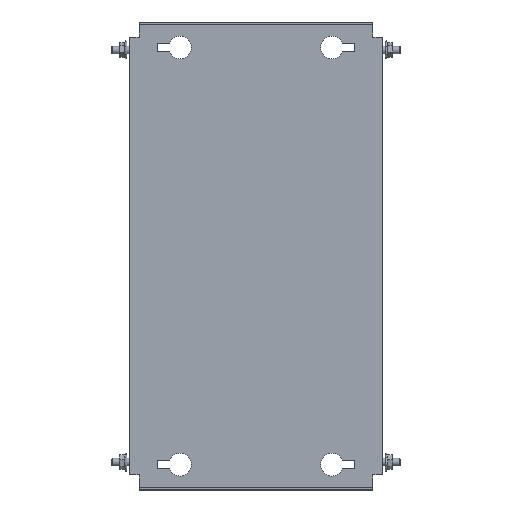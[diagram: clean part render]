
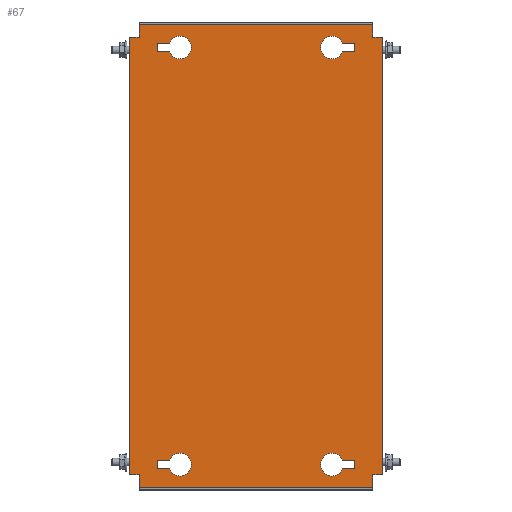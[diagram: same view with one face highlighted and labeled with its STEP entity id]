
A CAD part, top view. The second image highlights one B-rep face of the part: STEP entity #67.
In plain terms, the highlighted planar face has unit normal (0, 0, 1).
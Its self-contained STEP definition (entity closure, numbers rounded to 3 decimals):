
#67 = ADVANCED_FACE('',(#68,#103,#138,#300,#335),#370,.T.);
#68 = FACE_BOUND('',#69,.T.);
#69 = EDGE_LOOP('',(#70,#80,#88,#96));
#70 = ORIENTED_EDGE('',*,*,#71,.T.);
#71 = EDGE_CURVE('',#72,#74,#76,.T.);
#72 = VERTEX_POINT('',#73);
#73 = CARTESIAN_POINT('',(68.393,167.75,2.));
#74 = VERTEX_POINT('',#75);
#75 = CARTESIAN_POINT('',(78.,167.75,2.));
#76 = LINE('',#77,#78);
#77 = CARTESIAN_POINT('',(77.,167.75,2.));
#78 = VECTOR('',#79,1.);
#79 = DIRECTION('',(1.,0.,0.));
#80 = ORIENTED_EDGE('',*,*,#81,.T.);
#81 = EDGE_CURVE('',#74,#82,#84,.T.);
#82 = VERTEX_POINT('',#83);
#83 = CARTESIAN_POINT('',(78.,161.25,2.));
#84 = LINE('',#85,#86);
#85 = CARTESIAN_POINT('',(78.,167.75,2.));
#86 = VECTOR('',#87,1.);
#87 = DIRECTION('',(0.,-1.,0.));
#88 = ORIENTED_EDGE('',*,*,#89,.T.);
#89 = EDGE_CURVE('',#82,#90,#92,.T.);
#90 = VERTEX_POINT('',#91);
#91 = CARTESIAN_POINT('',(68.393,161.25,2.));
#92 = LINE('',#93,#94);
#93 = CARTESIAN_POINT('',(77.,161.25,2.));
#94 = VECTOR('',#95,1.);
#95 = DIRECTION('',(-1.,0.,0.));
#96 = ORIENTED_EDGE('',*,*,#97,.T.);
#97 = EDGE_CURVE('',#90,#72,#98,.T.);
#98 = CIRCLE('',#99,9.);
#99 = AXIS2_PLACEMENT_3D('',#100,#101,#102);
#100 = CARTESIAN_POINT('',(60.,164.5,2.));
#101 = DIRECTION('',(0.,0.,-1.));
#102 = DIRECTION('',(1.,0.,0.));
#103 = FACE_BOUND('',#104,.T.);
#104 = EDGE_LOOP('',(#105,#115,#123,#131));
#105 = ORIENTED_EDGE('',*,*,#106,.T.);
#106 = EDGE_CURVE('',#107,#109,#111,.T.);
#107 = VERTEX_POINT('',#108);
#108 = CARTESIAN_POINT('',(-68.393,-167.75,2.));
#109 = VERTEX_POINT('',#110);
#110 = CARTESIAN_POINT('',(-78.,-167.75,2.));
#111 = LINE('',#112,#113);
#112 = CARTESIAN_POINT('',(-77.,-167.75,2.));
#113 = VECTOR('',#114,1.);
#114 = DIRECTION('',(-1.,0.,0.));
#115 = ORIENTED_EDGE('',*,*,#116,.T.);
#116 = EDGE_CURVE('',#109,#117,#119,.T.);
#117 = VERTEX_POINT('',#118);
#118 = CARTESIAN_POINT('',(-78.,-161.25,2.));
#119 = LINE('',#120,#121);
#120 = CARTESIAN_POINT('',(-78.,-167.75,2.));
#121 = VECTOR('',#122,1.);
#122 = DIRECTION('',(0.,1.,0.));
#123 = ORIENTED_EDGE('',*,*,#124,.T.);
#124 = EDGE_CURVE('',#117,#125,#127,.T.);
#125 = VERTEX_POINT('',#126);
#126 = CARTESIAN_POINT('',(-68.393,-161.25,2.));
#127 = LINE('',#128,#129);
#128 = CARTESIAN_POINT('',(-77.,-161.25,2.));
#129 = VECTOR('',#130,1.);
#130 = DIRECTION('',(1.,-0.,-0.));
#131 = ORIENTED_EDGE('',*,*,#132,.T.);
#132 = EDGE_CURVE('',#125,#107,#133,.T.);
#133 = CIRCLE('',#134,9.);
#134 = AXIS2_PLACEMENT_3D('',#135,#136,#137);
#135 = CARTESIAN_POINT('',(-60.,-164.5,2.));
#136 = DIRECTION('',(0.,0.,-1.));
#137 = DIRECTION('',(-1.,0.,0.));
#138 = FACE_BOUND('',#139,.T.);
#139 = EDGE_LOOP('',(#140,#150,#158,#166,#174,#182,#190,#198,#206,#214,
    #222,#230,#238,#246,#254,#262,#270,#278,#286,#294));
#140 = ORIENTED_EDGE('',*,*,#141,.F.);
#141 = EDGE_CURVE('',#142,#144,#146,.T.);
#142 = VERTEX_POINT('',#143);
#143 = CARTESIAN_POINT('',(-97.4,172.5,2.));
#144 = VERTEX_POINT('',#145);
#145 = CARTESIAN_POINT('',(-92.,172.5,2.));
#146 = LINE('',#147,#148);
#147 = CARTESIAN_POINT('',(-98.,172.5,2.));
#148 = VECTOR('',#149,1.);
#149 = DIRECTION('',(1.,0.,-0.));
#150 = ORIENTED_EDGE('',*,*,#151,.T.);
#151 = EDGE_CURVE('',#142,#152,#154,.T.);
#152 = VERTEX_POINT('',#153);
#153 = CARTESIAN_POINT('',(-100.,172.5,2.));
#154 = LINE('',#155,#156);
#155 = CARTESIAN_POINT('',(-97.4,172.5,2.));
#156 = VECTOR('',#157,1.);
#157 = DIRECTION('',(-1.,0.,0.));
#158 = ORIENTED_EDGE('',*,*,#159,.F.);
#159 = EDGE_CURVE('',#160,#152,#162,.T.);
#160 = VERTEX_POINT('',#161);
#161 = CARTESIAN_POINT('',(-100.,-172.5,2.));
#162 = LINE('',#163,#164);
#163 = CARTESIAN_POINT('',(-100.,-182.5,2.));
#164 = VECTOR('',#165,1.);
#165 = DIRECTION('',(0.,1.,-0.));
#166 = ORIENTED_EDGE('',*,*,#167,.F.);
#167 = EDGE_CURVE('',#168,#160,#170,.T.);
#168 = VERTEX_POINT('',#169);
#169 = CARTESIAN_POINT('',(-97.4,-172.5,2.));
#170 = LINE('',#171,#172);
#171 = CARTESIAN_POINT('',(-92.,-172.5,2.));
#172 = VECTOR('',#173,1.);
#173 = DIRECTION('',(-1.,-0.,-0.));
#174 = ORIENTED_EDGE('',*,*,#175,.T.);
#175 = EDGE_CURVE('',#168,#176,#178,.T.);
#176 = VERTEX_POINT('',#177);
#177 = CARTESIAN_POINT('',(-92.,-172.5,2.));
#178 = LINE('',#179,#180);
#179 = CARTESIAN_POINT('',(-98.,-172.5,2.));
#180 = VECTOR('',#181,1.);
#181 = DIRECTION('',(1.,0.,-0.));
#182 = ORIENTED_EDGE('',*,*,#183,.T.);
#183 = EDGE_CURVE('',#176,#184,#186,.T.);
#184 = VERTEX_POINT('',#185);
#185 = CARTESIAN_POINT('',(-92.,-181.9,2.));
#186 = LINE('',#187,#188);
#187 = CARTESIAN_POINT('',(-92.,182.5,2.));
#188 = VECTOR('',#189,1.);
#189 = DIRECTION('',(0.,-1.,0.));
#190 = ORIENTED_EDGE('',*,*,#191,.T.);
#191 = EDGE_CURVE('',#184,#192,#194,.T.);
#192 = VERTEX_POINT('',#193);
#193 = CARTESIAN_POINT('',(-92.,-182.5,2.));
#194 = LINE('',#195,#196);
#195 = CARTESIAN_POINT('',(-92.,-181.9,2.));
#196 = VECTOR('',#197,1.);
#197 = DIRECTION('',(-0.,-1.,-0.));
#198 = ORIENTED_EDGE('',*,*,#199,.T.);
#199 = EDGE_CURVE('',#192,#200,#202,.T.);
#200 = VERTEX_POINT('',#201);
#201 = CARTESIAN_POINT('',(92.,-182.5,2.));
#202 = LINE('',#203,#204);
#203 = CARTESIAN_POINT('',(92.,-182.5,2.));
#204 = VECTOR('',#205,1.);
#205 = DIRECTION('',(1.,0.,0.));
#206 = ORIENTED_EDGE('',*,*,#207,.F.);
#207 = EDGE_CURVE('',#208,#200,#210,.T.);
#208 = VERTEX_POINT('',#209);
#209 = CARTESIAN_POINT('',(92.,-181.9,2.));
#210 = LINE('',#211,#212);
#211 = CARTESIAN_POINT('',(92.,-182.5,2.));
#212 = VECTOR('',#213,1.);
#213 = DIRECTION('',(0.,-1.,0.));
#214 = ORIENTED_EDGE('',*,*,#215,.T.);
#215 = EDGE_CURVE('',#208,#216,#218,.T.);
#216 = VERTEX_POINT('',#217);
#217 = CARTESIAN_POINT('',(92.,-172.5,2.));
#218 = LINE('',#219,#220);
#219 = CARTESIAN_POINT('',(92.,182.5,2.));
#220 = VECTOR('',#221,1.);
#221 = DIRECTION('',(0.,1.,-0.));
#222 = ORIENTED_EDGE('',*,*,#223,.F.);
#223 = EDGE_CURVE('',#224,#216,#226,.T.);
#224 = VERTEX_POINT('',#225);
#225 = CARTESIAN_POINT('',(97.4,-172.5,2.));
#226 = LINE('',#227,#228);
#227 = CARTESIAN_POINT('',(98.,-172.5,2.));
#228 = VECTOR('',#229,1.);
#229 = DIRECTION('',(-1.,0.,-0.));
#230 = ORIENTED_EDGE('',*,*,#231,.T.);
#231 = EDGE_CURVE('',#224,#232,#234,.T.);
#232 = VERTEX_POINT('',#233);
#233 = CARTESIAN_POINT('',(100.,-172.5,2.));
#234 = LINE('',#235,#236);
#235 = CARTESIAN_POINT('',(97.4,-172.5,2.));
#236 = VECTOR('',#237,1.);
#237 = DIRECTION('',(1.,-0.,0.));
#238 = ORIENTED_EDGE('',*,*,#239,.F.);
#239 = EDGE_CURVE('',#240,#232,#242,.T.);
#240 = VERTEX_POINT('',#241);
#241 = CARTESIAN_POINT('',(100.,172.5,2.));
#242 = LINE('',#243,#244);
#243 = CARTESIAN_POINT('',(100.,-182.5,2.));
#244 = VECTOR('',#245,1.);
#245 = DIRECTION('',(0.,-1.,-0.));
#246 = ORIENTED_EDGE('',*,*,#247,.F.);
#247 = EDGE_CURVE('',#248,#240,#250,.T.);
#248 = VERTEX_POINT('',#249);
#249 = CARTESIAN_POINT('',(97.4,172.5,2.));
#250 = LINE('',#251,#252);
#251 = CARTESIAN_POINT('',(-92.,172.5,2.));
#252 = VECTOR('',#253,1.);
#253 = DIRECTION('',(1.,-0.,0.));
#254 = ORIENTED_EDGE('',*,*,#255,.T.);
#255 = EDGE_CURVE('',#248,#256,#258,.T.);
#256 = VERTEX_POINT('',#257);
#257 = CARTESIAN_POINT('',(92.,172.5,2.));
#258 = LINE('',#259,#260);
#259 = CARTESIAN_POINT('',(98.,172.5,2.));
#260 = VECTOR('',#261,1.);
#261 = DIRECTION('',(-1.,0.,-0.));
#262 = ORIENTED_EDGE('',*,*,#263,.T.);
#263 = EDGE_CURVE('',#256,#264,#266,.T.);
#264 = VERTEX_POINT('',#265);
#265 = CARTESIAN_POINT('',(92.,181.9,2.));
#266 = LINE('',#267,#268);
#267 = CARTESIAN_POINT('',(92.,182.5,2.));
#268 = VECTOR('',#269,1.);
#269 = DIRECTION('',(0.,1.,-0.));
#270 = ORIENTED_EDGE('',*,*,#271,.T.);
#271 = EDGE_CURVE('',#264,#272,#274,.T.);
#272 = VERTEX_POINT('',#273);
#273 = CARTESIAN_POINT('',(92.,182.5,2.));
#274 = LINE('',#275,#276);
#275 = CARTESIAN_POINT('',(92.,181.9,2.));
#276 = VECTOR('',#277,1.);
#277 = DIRECTION('',(-0.,1.,-0.));
#278 = ORIENTED_EDGE('',*,*,#279,.T.);
#279 = EDGE_CURVE('',#272,#280,#282,.T.);
#280 = VERTEX_POINT('',#281);
#281 = CARTESIAN_POINT('',(-92.,182.5,2.));
#282 = LINE('',#283,#284);
#283 = CARTESIAN_POINT('',(-92.,182.5,2.));
#284 = VECTOR('',#285,1.);
#285 = DIRECTION('',(-1.,0.,0.));
#286 = ORIENTED_EDGE('',*,*,#287,.F.);
#287 = EDGE_CURVE('',#288,#280,#290,.T.);
#288 = VERTEX_POINT('',#289);
#289 = CARTESIAN_POINT('',(-92.,181.9,2.));
#290 = LINE('',#291,#292);
#291 = CARTESIAN_POINT('',(-92.,-182.5,2.));
#292 = VECTOR('',#293,1.);
#293 = DIRECTION('',(0.,1.,-0.));
#294 = ORIENTED_EDGE('',*,*,#295,.T.);
#295 = EDGE_CURVE('',#288,#144,#296,.T.);
#296 = LINE('',#297,#298);
#297 = CARTESIAN_POINT('',(-92.,182.5,2.));
#298 = VECTOR('',#299,1.);
#299 = DIRECTION('',(0.,-1.,0.));
#300 = FACE_BOUND('',#301,.T.);
#301 = EDGE_LOOP('',(#302,#312,#320,#328));
#302 = ORIENTED_EDGE('',*,*,#303,.F.);
#303 = EDGE_CURVE('',#304,#306,#308,.T.);
#304 = VERTEX_POINT('',#305);
#305 = CARTESIAN_POINT('',(78.,-161.25,2.));
#306 = VERTEX_POINT('',#307);
#307 = CARTESIAN_POINT('',(68.393,-161.25,2.));
#308 = LINE('',#309,#310);
#309 = CARTESIAN_POINT('',(68.393,-161.25,2.));
#310 = VECTOR('',#311,1.);
#311 = DIRECTION('',(-1.,0.,0.));
#312 = ORIENTED_EDGE('',*,*,#313,.F.);
#313 = EDGE_CURVE('',#314,#304,#316,.T.);
#314 = VERTEX_POINT('',#315);
#315 = CARTESIAN_POINT('',(78.,-167.75,2.));
#316 = LINE('',#317,#318);
#317 = CARTESIAN_POINT('',(78.,-161.25,2.));
#318 = VECTOR('',#319,1.);
#319 = DIRECTION('',(0.,1.,0.));
#320 = ORIENTED_EDGE('',*,*,#321,.F.);
#321 = EDGE_CURVE('',#322,#314,#324,.T.);
#322 = VERTEX_POINT('',#323);
#323 = CARTESIAN_POINT('',(68.393,-167.75,2.));
#324 = LINE('',#325,#326);
#325 = CARTESIAN_POINT('',(77.,-167.75,2.));
#326 = VECTOR('',#327,1.);
#327 = DIRECTION('',(1.,0.,0.));
#328 = ORIENTED_EDGE('',*,*,#329,.F.);
#329 = EDGE_CURVE('',#306,#322,#330,.T.);
#330 = CIRCLE('',#331,9.);
#331 = AXIS2_PLACEMENT_3D('',#332,#333,#334);
#332 = CARTESIAN_POINT('',(60.,-164.5,2.));
#333 = DIRECTION('',(0.,-0.,1.));
#334 = DIRECTION('',(1.,0.,0.));
#335 = FACE_BOUND('',#336,.T.);
#336 = EDGE_LOOP('',(#337,#347,#355,#363));
#337 = ORIENTED_EDGE('',*,*,#338,.F.);
#338 = EDGE_CURVE('',#339,#341,#343,.T.);
#339 = VERTEX_POINT('',#340);
#340 = CARTESIAN_POINT('',(-78.,161.25,2.));
#341 = VERTEX_POINT('',#342);
#342 = CARTESIAN_POINT('',(-68.393,161.25,2.));
#343 = LINE('',#344,#345);
#344 = CARTESIAN_POINT('',(-68.393,161.25,2.));
#345 = VECTOR('',#346,1.);
#346 = DIRECTION('',(1.,0.,0.));
#347 = ORIENTED_EDGE('',*,*,#348,.F.);
#348 = EDGE_CURVE('',#349,#339,#351,.T.);
#349 = VERTEX_POINT('',#350);
#350 = CARTESIAN_POINT('',(-78.,167.75,2.));
#351 = LINE('',#352,#353);
#352 = CARTESIAN_POINT('',(-78.,161.25,2.));
#353 = VECTOR('',#354,1.);
#354 = DIRECTION('',(0.,-1.,0.));
#355 = ORIENTED_EDGE('',*,*,#356,.F.);
#356 = EDGE_CURVE('',#357,#349,#359,.T.);
#357 = VERTEX_POINT('',#358);
#358 = CARTESIAN_POINT('',(-68.393,167.75,2.));
#359 = LINE('',#360,#361);
#360 = CARTESIAN_POINT('',(-77.,167.75,2.));
#361 = VECTOR('',#362,1.);
#362 = DIRECTION('',(-1.,0.,0.));
#363 = ORIENTED_EDGE('',*,*,#364,.F.);
#364 = EDGE_CURVE('',#341,#357,#365,.T.);
#365 = CIRCLE('',#366,9.);
#366 = AXIS2_PLACEMENT_3D('',#367,#368,#369);
#367 = CARTESIAN_POINT('',(-60.,164.5,2.));
#368 = DIRECTION('',(0.,-0.,1.));
#369 = DIRECTION('',(-1.,0.,0.));
#370 = PLANE('',#371);
#371 = AXIS2_PLACEMENT_3D('',#372,#373,#374);
#372 = CARTESIAN_POINT('',(-92.,-182.5,2.));
#373 = DIRECTION('',(-0.,0.,1.));
#374 = DIRECTION('',(1.,0.,0.));
